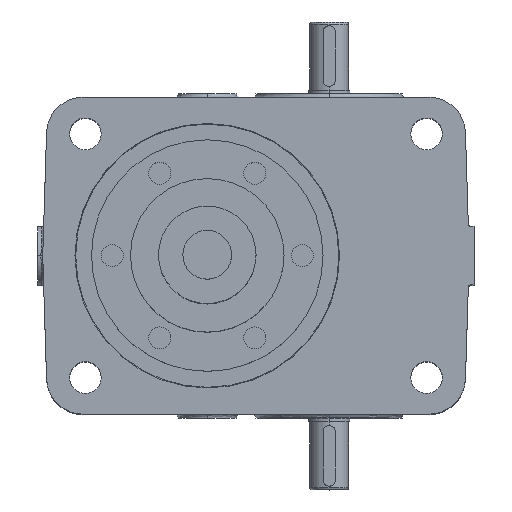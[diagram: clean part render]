
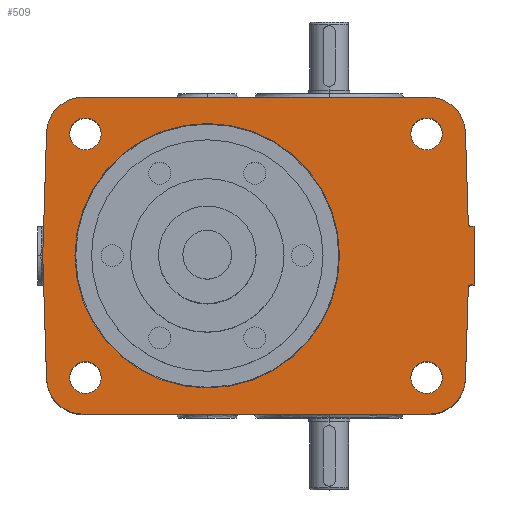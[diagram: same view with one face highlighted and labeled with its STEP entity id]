
A CAD part, top view. The second image highlights one B-rep face of the part: STEP entity #509.
In plain terms, the highlighted planar face has unit normal (0, 0, 1).
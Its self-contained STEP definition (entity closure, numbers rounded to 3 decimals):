
#509=ADVANCED_FACE('',(#1481,#1482,#1483,#1484,#1485,#1486),#1487,.T.);
#1481=FACE_OUTER_BOUND('',#4339,.T.);
#1482=FACE_BOUND('',#4340,.T.);
#1483=FACE_BOUND('',#4341,.T.);
#1484=FACE_BOUND('',#4342,.T.);
#1485=FACE_BOUND('',#4343,.T.);
#1486=FACE_BOUND('',#4344,.T.);
#1487=PLANE('',#4345);
#4339=EDGE_LOOP('',(#7595,#7596,#7597,#7598,#7599,#7600,#7601,#7602,#7603,#7604,#7605,#7606,#7607,#7608,#7609));
#4340=EDGE_LOOP('',(#7610,#7611));
#4341=EDGE_LOOP('',(#7612,#7613));
#4342=EDGE_LOOP('',(#7614,#7615));
#4343=EDGE_LOOP('',(#7616,#7617));
#4344=EDGE_LOOP('',(#7618,#7619));
#4345=AXIS2_PLACEMENT_3D('',#7620,#7621,#7622);
#7595=ORIENTED_EDGE('',*,*,#9151,.T.);
#7596=ORIENTED_EDGE('',*,*,#9177,.T.);
#7597=ORIENTED_EDGE('',*,*,#9157,.T.);
#7598=ORIENTED_EDGE('',*,*,#9161,.T.);
#7599=ORIENTED_EDGE('',*,*,#9162,.T.);
#7600=ORIENTED_EDGE('',*,*,#9165,.T.);
#7601=ORIENTED_EDGE('',*,*,#9168,.T.);
#7602=ORIENTED_EDGE('',*,*,#9169,.T.);
#7603=ORIENTED_EDGE('',*,*,#9172,.T.);
#7604=ORIENTED_EDGE('',*,*,#9173,.T.);
#7605=ORIENTED_EDGE('',*,*,#9175,.T.);
#7606=ORIENTED_EDGE('',*,*,#9140,.T.);
#7607=ORIENTED_EDGE('',*,*,#9149,.T.);
#7608=ORIENTED_EDGE('',*,*,#9176,.T.);
#7609=ORIENTED_EDGE('',*,*,#9143,.T.);
#7610=ORIENTED_EDGE('',*,*,#8182,.T.);
#7611=ORIENTED_EDGE('',*,*,#9183,.T.);
#7612=ORIENTED_EDGE('',*,*,#8186,.T.);
#7613=ORIENTED_EDGE('',*,*,#9182,.T.);
#7614=ORIENTED_EDGE('',*,*,#8190,.T.);
#7615=ORIENTED_EDGE('',*,*,#9181,.T.);
#7616=ORIENTED_EDGE('',*,*,#8194,.T.);
#7617=ORIENTED_EDGE('',*,*,#9180,.T.);
#7618=ORIENTED_EDGE('',*,*,#9179,.T.);
#7619=ORIENTED_EDGE('',*,*,#8196,.T.);
#7620=CARTESIAN_POINT('',(20.0,0.,130.0));
#7621=DIRECTION('',(0.0,0.0,1.0));
#7622=DIRECTION('',(1.0,0.0,0.0));
#8182=EDGE_CURVE('',#9543,#9547,#9549,.T.);
#8186=EDGE_CURVE('',#9551,#9555,#9557,.T.);
#8190=EDGE_CURVE('',#9559,#9563,#9565,.T.);
#8194=EDGE_CURVE('',#9567,#9571,#9573,.T.);
#8196=EDGE_CURVE('',#9576,#9574,#9577,.T.);
#9140=EDGE_CURVE('',#11120,#11122,#11124,.T.);
#9143=EDGE_CURVE('',#11127,#11128,#11129,.T.);
#9149=EDGE_CURVE('',#11122,#11135,#11137,.T.);
#9151=EDGE_CURVE('',#11128,#11138,#11140,.T.);
#9157=EDGE_CURVE('',#11146,#11147,#11148,.T.);
#9161=EDGE_CURVE('',#11147,#11151,#11153,.T.);
#9162=EDGE_CURVE('',#11151,#11154,#11155,.T.);
#9165=EDGE_CURVE('',#11154,#11157,#11159,.T.);
#9168=EDGE_CURVE('',#11157,#11161,#11163,.T.);
#9169=EDGE_CURVE('',#11161,#11164,#11165,.T.);
#9172=EDGE_CURVE('',#11164,#11167,#11169,.T.);
#9173=EDGE_CURVE('',#11167,#11170,#11171,.T.);
#9175=EDGE_CURVE('',#11170,#11120,#11173,.T.);
#9176=EDGE_CURVE('',#11135,#11127,#11174,.T.);
#9177=EDGE_CURVE('',#11138,#11146,#11175,.T.);
#9179=EDGE_CURVE('',#9574,#9576,#11177,.T.);
#9180=EDGE_CURVE('',#9571,#9567,#11178,.T.);
#9181=EDGE_CURVE('',#9563,#9559,#11179,.T.);
#9182=EDGE_CURVE('',#9555,#9551,#11180,.T.);
#9183=EDGE_CURVE('',#9547,#9543,#11181,.T.);
#9543=VERTEX_POINT('',#12232);
#9547=VERTEX_POINT('',#12237);
#9549=CIRCLE('',#12240,6.5);
#9551=VERTEX_POINT('',#12242);
#9555=VERTEX_POINT('',#12247);
#9557=CIRCLE('',#12250,6.5);
#9559=VERTEX_POINT('',#12252);
#9563=VERTEX_POINT('',#12257);
#9565=CIRCLE('',#12260,6.5);
#9567=VERTEX_POINT('',#12262);
#9571=VERTEX_POINT('',#12267);
#9573=CIRCLE('',#12270,6.5);
#9574=VERTEX_POINT('',#12271);
#9576=VERTEX_POINT('',#12274);
#9577=CIRCLE('',#12275,54.268);
#11120=VERTEX_POINT('',#17115);
#11122=VERTEX_POINT('',#17118);
#11124=CIRCLE('',#17121,1.);
#11127=VERTEX_POINT('',#17125);
#11128=VERTEX_POINT('',#17126);
#11129=LINE('',#17127,#17128);
#11135=VERTEX_POINT('',#17137);
#11137=LINE('',#17140,#17141);
#11138=VERTEX_POINT('',#17142);
#11140=CIRCLE('',#17145,1.0);
#11146=VERTEX_POINT('',#17152);
#11147=VERTEX_POINT('',#17153);
#11148=CIRCLE('',#17154,15.0);
#11151=VERTEX_POINT('',#17159);
#11153=LINE('',#17162,#17163);
#11154=VERTEX_POINT('',#17164);
#11155=CIRCLE('',#17165,15.0);
#11157=VERTEX_POINT('',#17168);
#11159=LINE('',#17171,#17172);
#11161=VERTEX_POINT('',#17175);
#11163=LINE('',#17178,#17179);
#11164=VERTEX_POINT('',#17180);
#11165=CIRCLE('',#17181,15.0);
#11167=VERTEX_POINT('',#17184);
#11169=LINE('',#17187,#17188);
#11170=VERTEX_POINT('',#17189);
#11171=CIRCLE('',#17190,15.0);
#11173=LINE('',#17193,#17194);
#11174=LINE('',#17195,#17196);
#11175=LINE('',#17197,#17198);
#11177=CIRCLE('',#17200,54.268);
#11178=CIRCLE('',#17201,6.5);
#11179=CIRCLE('',#17202,6.5);
#11180=CIRCLE('',#17203,6.5);
#11181=CIRCLE('',#17204,6.5);
#12232=CARTESIAN_POINT('',(-56.5,50.0,130.0));
#12237=CARTESIAN_POINT('',(-43.5,50.0,130.0));
#12240=AXIS2_PLACEMENT_3D('',#17622,#17623,#17624);
#12242=CARTESIAN_POINT('',(83.5,50.0,130.0));
#12247=CARTESIAN_POINT('',(96.5,50.0,130.0));
#12250=AXIS2_PLACEMENT_3D('',#17630,#17631,#17632);
#12252=CARTESIAN_POINT('',(83.5,-50.0,130.0));
#12257=CARTESIAN_POINT('',(96.5,-50.0,130.0));
#12260=AXIS2_PLACEMENT_3D('',#17638,#17639,#17640);
#12262=CARTESIAN_POINT('',(-56.5,-50.0,130.0));
#12267=CARTESIAN_POINT('',(-43.5,-50.0,130.0));
#12270=AXIS2_PLACEMENT_3D('',#17646,#17647,#17648);
#12271=CARTESIAN_POINT('',(54.268,0.0,130.0));
#12274=CARTESIAN_POINT('',(-54.268,0.,130.0));
#12275=AXIS2_PLACEMENT_3D('',#17650,#17651,#17652);
#17115=CARTESIAN_POINT('',(107.101,-12.969,130.0));
#17118=CARTESIAN_POINT('',(108.1,-12.0,130.0));
#17121=AXIS2_PLACEMENT_3D('',#18731,#18732,#18733);
#17125=CARTESIAN_POINT('',(109.5,12.0,130.0));
#17126=CARTESIAN_POINT('',(108.1,12.0,130.0));
#17127=CARTESIAN_POINT('',(109.5,12.0,130.0));
#17128=VECTOR('',#18738,1000.0);
#17137=CARTESIAN_POINT('',(109.5,-12.0,130.0));
#17140=CARTESIAN_POINT('',(109.5,-12.0,130.0));
#17141=VECTOR('',#18746,1000.0);
#17142=CARTESIAN_POINT('',(107.101,12.969,130.0));
#17145=AXIS2_PLACEMENT_3D('',#18748,#18749,#18750);
#17152=CARTESIAN_POINT('',(105.947,50.461,130.0));
#17153=CARTESIAN_POINT('',(90.954,65.0,130.0));
#17154=AXIS2_PLACEMENT_3D('',#18764,#18765,#18766);
#17159=CARTESIAN_POINT('',(-50.954,65.0,130.0));
#17162=CARTESIAN_POINT('',(20.0,65.0,130.0));
#17163=VECTOR('',#18770,1000.0);
#17164=CARTESIAN_POINT('',(-65.947,50.461,130.0));
#17165=AXIS2_PLACEMENT_3D('',#18771,#18772,#18773);
#17168=CARTESIAN_POINT('',(-67.5,0.,130.0));
#17171=CARTESIAN_POINT('',(-65.947,50.461,130.0));
#17172=VECTOR('',#18776,1000.0);
#17175=CARTESIAN_POINT('',(-65.947,-50.461,130.0));
#17178=CARTESIAN_POINT('',(-67.5,0.,130.0));
#17179=VECTOR('',#18779,1000.0);
#17180=CARTESIAN_POINT('',(-50.954,-65.0,130.0));
#17181=AXIS2_PLACEMENT_3D('',#18780,#18781,#18782);
#17184=CARTESIAN_POINT('',(90.954,-65.0,130.0));
#17187=CARTESIAN_POINT('',(20.0,-65.0,130.0));
#17188=VECTOR('',#18785,1000.0);
#17189=CARTESIAN_POINT('',(105.947,-50.461,130.0));
#17190=AXIS2_PLACEMENT_3D('',#18786,#18787,#18788);
#17193=CARTESIAN_POINT('',(105.947,-50.461,130.0));
#17194=VECTOR('',#18790,1000.0);
#17195=CARTESIAN_POINT('',(109.5,0.,130.0));
#17196=VECTOR('',#18791,1000.0);
#17197=CARTESIAN_POINT('',(107.101,12.969,130.0));
#17198=VECTOR('',#18792,1000.0);
#17200=AXIS2_PLACEMENT_3D('',#18796,#18797,#18798);
#17201=AXIS2_PLACEMENT_3D('',#18799,#18800,#18801);
#17202=AXIS2_PLACEMENT_3D('',#18802,#18803,#18804);
#17203=AXIS2_PLACEMENT_3D('',#18805,#18806,#18807);
#17204=AXIS2_PLACEMENT_3D('',#18808,#18809,#18810);
#17622=CARTESIAN_POINT('',(-50.0,50.0,130.0));
#17623=DIRECTION('',(0.0,0.0,-1.0));
#17624=DIRECTION('',(-1.0,0.0,0.0));
#17630=CARTESIAN_POINT('',(90.0,50.0,130.0));
#17631=DIRECTION('',(0.0,0.0,-1.0));
#17632=DIRECTION('',(-1.0,0.0,0.0));
#17638=CARTESIAN_POINT('',(90.0,-50.0,130.0));
#17639=DIRECTION('',(0.0,0.0,-1.0));
#17640=DIRECTION('',(-1.0,0.0,0.0));
#17646=CARTESIAN_POINT('',(-50.0,-50.0,130.0));
#17647=DIRECTION('',(0.0,0.0,-1.0));
#17648=DIRECTION('',(-1.0,0.0,0.0));
#17650=CARTESIAN_POINT('',(0.0,0.0,130.0));
#17651=DIRECTION('',(0.0,0.0,-1.0));
#17652=DIRECTION('',(1.0,0.0,0.0));
#18731=CARTESIAN_POINT('',(108.1,-13.0,130.0));
#18732=DIRECTION('',(0.,-0.0,-1.0));
#18733=DIRECTION('',(0.0,-1.0,0.0));
#18738=DIRECTION('',(-1.0,-0.0,-0.0));
#18746=DIRECTION('',(1.0,-0.0,0.0));
#18748=CARTESIAN_POINT('',(108.1,13.0,130.0));
#18749=DIRECTION('',(0.,0.0,-1.0));
#18750=DIRECTION('',(0.0,1.0,0.0));
#18764=CARTESIAN_POINT('',(90.954,50.0,130.0));
#18765=DIRECTION('',(0.0,0.0,1.0));
#18766=DIRECTION('',(-1.0,0.0,0.0));
#18770=DIRECTION('',(-1.0,-0.0,0.0));
#18771=CARTESIAN_POINT('',(-50.954,50.0,130.0));
#18772=DIRECTION('',(0.0,0.0,1.0));
#18773=DIRECTION('',(1.0,0.0,0.0));
#18776=DIRECTION('',(-0.031,-1.,0.0));
#18779=DIRECTION('',(0.031,-1.,0.0));
#18780=CARTESIAN_POINT('',(-50.954,-50.0,130.0));
#18781=DIRECTION('',(0.0,0.0,1.0));
#18782=DIRECTION('',(-1.0,0.0,0.0));
#18785=DIRECTION('',(1.0,0.0,-0.0));
#18786=CARTESIAN_POINT('',(90.954,-50.0,130.0));
#18787=DIRECTION('',(0.0,0.0,1.0));
#18788=DIRECTION('',(1.0,0.0,0.0));
#18790=DIRECTION('',(0.031,1.,0.0));
#18791=DIRECTION('',(-0.0,1.0,0.0));
#18792=DIRECTION('',(-0.031,1.,0.0));
#18796=CARTESIAN_POINT('',(0.0,0.0,130.0));
#18797=DIRECTION('',(0.0,0.0,-1.0));
#18798=DIRECTION('',(1.0,0.0,0.0));
#18799=CARTESIAN_POINT('',(-50.0,-50.0,130.0));
#18800=DIRECTION('',(0.0,0.0,-1.0));
#18801=DIRECTION('',(-1.0,0.0,0.0));
#18802=CARTESIAN_POINT('',(90.0,-50.0,130.0));
#18803=DIRECTION('',(0.0,0.0,-1.0));
#18804=DIRECTION('',(-1.0,0.0,0.0));
#18805=CARTESIAN_POINT('',(90.0,50.0,130.0));
#18806=DIRECTION('',(0.0,0.0,-1.0));
#18807=DIRECTION('',(-1.0,0.0,0.0));
#18808=CARTESIAN_POINT('',(-50.0,50.0,130.0));
#18809=DIRECTION('',(0.0,0.0,-1.0));
#18810=DIRECTION('',(-1.0,0.0,0.0));
